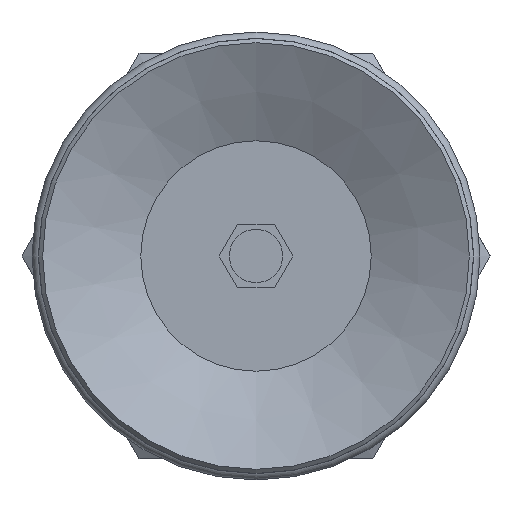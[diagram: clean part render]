
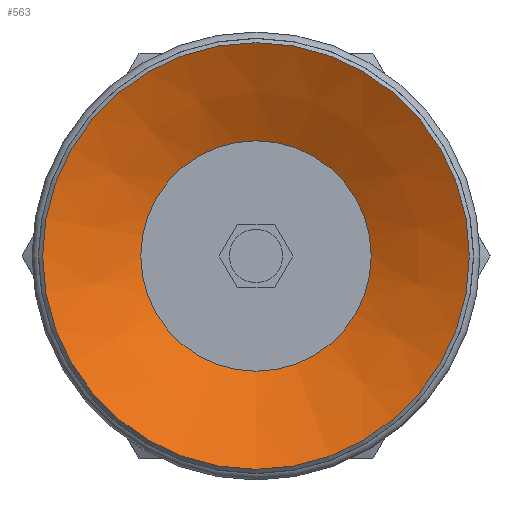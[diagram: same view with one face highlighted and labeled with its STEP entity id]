
A CAD part, front view. The second image highlights one B-rep face of the part: STEP entity #563.
In plain terms, the highlighted conical face has half-angle 63 degrees and reference radius 5.4 mm.
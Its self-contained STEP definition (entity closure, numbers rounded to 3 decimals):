
#563=ADVANCED_FACE('',(#837,#838),#839,.F.);
#837=FACE_BOUND('',#1134,.T.);
#838=FACE_OUTER_BOUND('',#1135,.T.);
#839=CONICAL_SURFACE('',#1136,5.4,1.1);
#1134=EDGE_LOOP('',(#1906));
#1135=EDGE_LOOP('',(#1907));
#1136=AXIS2_PLACEMENT_3D('',#1908,#1909,#1910);
#1906=ORIENTED_EDGE('',*,*,#2176,.F.);
#1907=ORIENTED_EDGE('',*,*,#2177,.T.);
#1908=CARTESIAN_POINT('',(0.0,5.518,0.0));
#1909=DIRECTION('',(-0.0,-1.0,0.));
#1910=DIRECTION('',(0.0,0.,-1.0));
#2176=EDGE_CURVE('',#2540,#2540,#2541,.T.);
#2177=EDGE_CURVE('',#2542,#2542,#2543,.T.);
#2540=VERTEX_POINT('',#3352);
#2541=CIRCLE('',#3353,5.4);
#2542=VERTEX_POINT('',#3354);
#2543=CIRCLE('',#3355,10.0);
#3352=CARTESIAN_POINT('',(0.0,5.518,-5.4));
#3353=AXIS2_PLACEMENT_3D('',#3694,#3695,#3696);
#3354=CARTESIAN_POINT('',(0.0,3.175,-10.0));
#3355=AXIS2_PLACEMENT_3D('',#3697,#3698,#3699);
#3694=CARTESIAN_POINT('',(0.0,5.518,0.0));
#3695=DIRECTION('',(0.0,-1.0,0.));
#3696=DIRECTION('',(0.0,0.,-1.0));
#3697=CARTESIAN_POINT('',(0.0,3.175,0.0));
#3698=DIRECTION('',(0.0,-1.0,0.));
#3699=DIRECTION('',(0.0,0.,-1.0));
